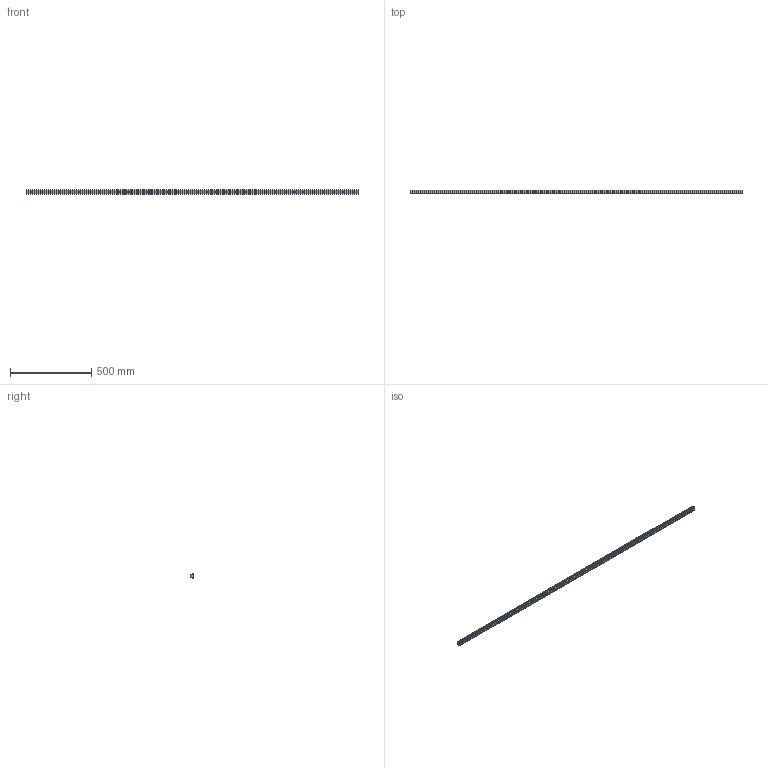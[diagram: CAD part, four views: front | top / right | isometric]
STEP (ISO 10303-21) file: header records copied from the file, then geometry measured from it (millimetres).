
FILE_DESCRIPTION (( 'STEP AP203' ), '1' );
FILE_NAME ('L1018.25R-2040.step', '2023-08-06T10:40:08', ( '' ), ( '' ), 'SwSTEP 2.0', 'SolidWorks 2019', '' );
FILE_SCHEMA (( 'CONFIG_CONTROL_DESIGN' ));
Length unit declared in the file: millimetre
Products named in the file (1): L1018.25R-2040
Bounding box: 2040 x 21.8 x 25 mm (x, y, z)
Volume: 848411.7 mm3; surface area: 203417.1 mm2
Topology: 1 solids, 1 shells, 335 faces, 761 edges, 428 vertices
Faces by surface type: cylinder 139, cone 136, plane 60
Entity records: 8954 total; most frequent: DIRECTION 1711, CARTESIAN_POINT 1457, ORIENTED_EDGE 1386, EDGE_CURVE 693, AXIS2_PLACEMENT_3D 682, VERTEX_POINT 428, EDGE_LOOP 403, LINE 347
